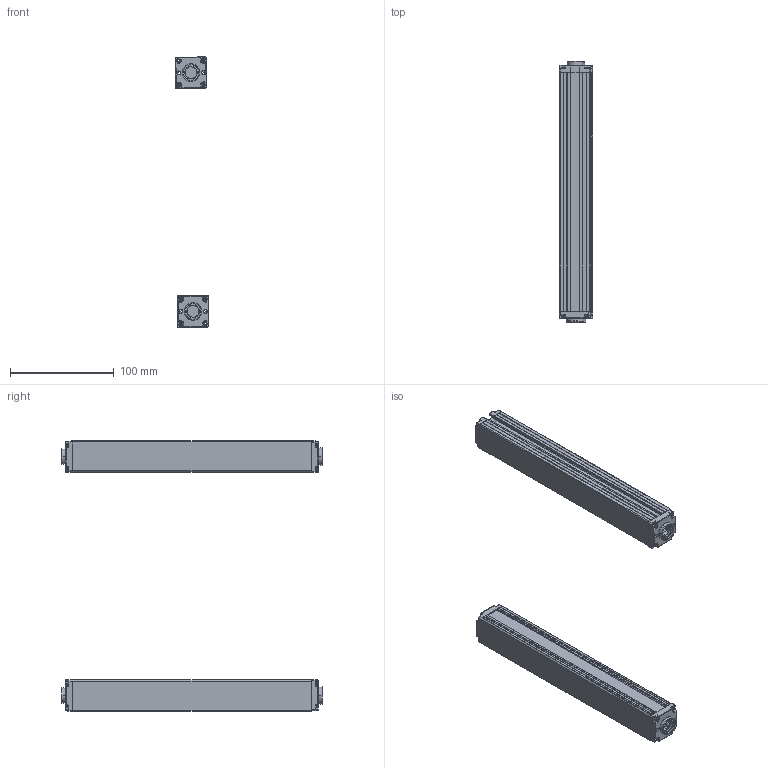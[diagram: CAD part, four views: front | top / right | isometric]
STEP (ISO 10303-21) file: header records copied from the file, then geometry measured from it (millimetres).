
FILE_DESCRIPTION (( 'STEP AP203' ), '1' );
FILE_NAME ('ZDA0640-230.STEP', '2022-08-31T03:39:03', ( 'Windows 蚚誧' ), ( 'Organization' ), 'SwSTEP 2.0', 'SolidWorks 2020', '' );
FILE_SCHEMA (( 'CONFIG_CONTROL_DESIGN' ));
Length unit declared in the file: millimetre
Products named in the file (5): 錨璃8 - 萵掛 (2); 錨璃10; ZDA0640-230; 錨璃1; 錨璃8
Assembly tree (8 placements, depth 2):
  ZDA0640-230
    錨璃1  x2
    錨璃8  x2
    錨璃8 - 萵掛 (2)  x2
    錨璃10  x2
Bounding box: 32.36 x 251.4 x 260.35 mm (x, y, z)
Volume: 155061.4 mm3; surface area: 166670 mm2
Topology: 8 solids, 8 shells, 1032 faces, 2690 edges, 1668 vertices
Faces by surface type: plane 464, cylinder 310, cone 120, bspline 58, torus 48, sphere 32
Entity records: 17901 total; most frequent: CARTESIAN_POINT 4731, ORIENTED_EDGE 2666, DIRECTION 2616, EDGE_CURVE 1333, AXIS2_PLACEMENT_3D 894, VERTEX_POINT 834, VECTOR 828, LINE 828
